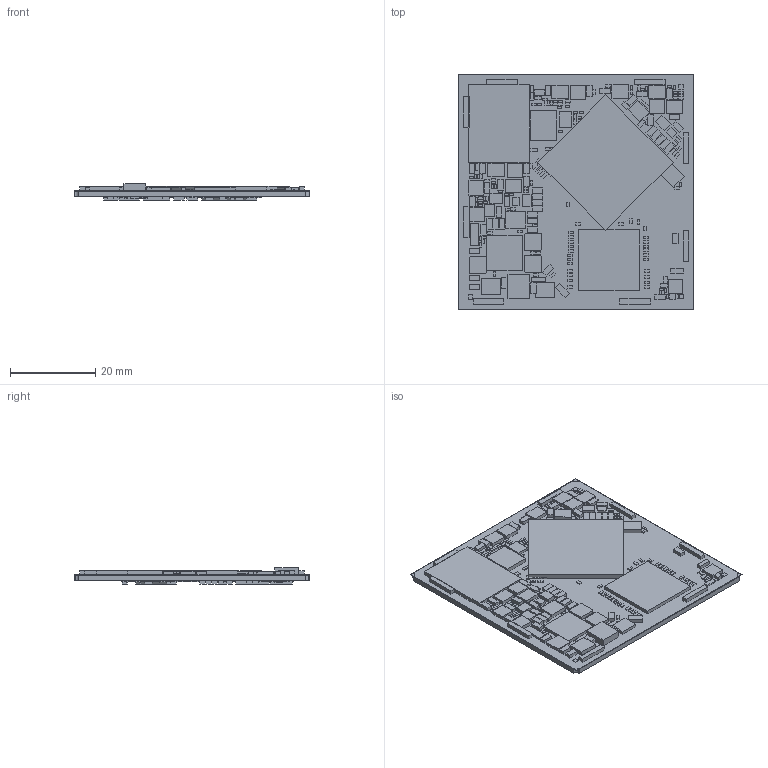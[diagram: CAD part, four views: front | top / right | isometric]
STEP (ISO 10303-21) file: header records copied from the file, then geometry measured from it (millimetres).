
FILE_DESCRIPTION(('FreeCAD Model'),'2;1');
FILE_NAME('/private/tmp/core/ROCK PI 4 CORE_V1.1_3D文件/a.step', '2021-09-16T20:21:03',('Author'),(''), 'Open CASCADE STEP processor 7.3','FreeCAD','Unknown');
FILE_SCHEMA(('AUTOMOTIVE_DESIGN { 1 0 10303 214 1 1 1 1 }'));
Length unit declared in the file: millimetre
Products named in the file (479): Q3; Q3602; Q3603; Q4; Board_outline; C1; C10; C100; C101; C102; C103; C104; C105; C106; C107; C108; C109; C11; C110; C111; C112; C113; C114; C115; C116; C117; C118; C119; C12; C120; C121; C122; C123; C124; C125; C126; C127; C156; C128; C129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
Bounding box: 55.02 x 55.05 x 3.8 mm (x, y, z)
Volume: 6102.4 mm3; surface area: 24217 mm2
Topology: 479 solids, 479 shells, 2888 faces, 5790 edges, 3860 vertices
Faces by surface type: plane 2882, cylinder 6
Entity records: 157182 total; most frequent: CARTESIAN_POINT 24119, DIRECTION 23160, LINE 17346, VECTOR 17346, ORIENTED_EDGE 11580, PCURVE 11580, DEFINITIONAL_REPRESENTATION 11580, EDGE_CURVE 5790
